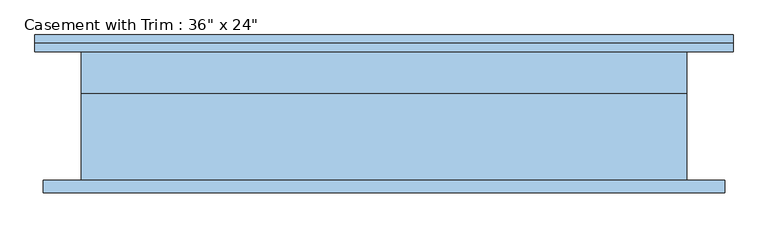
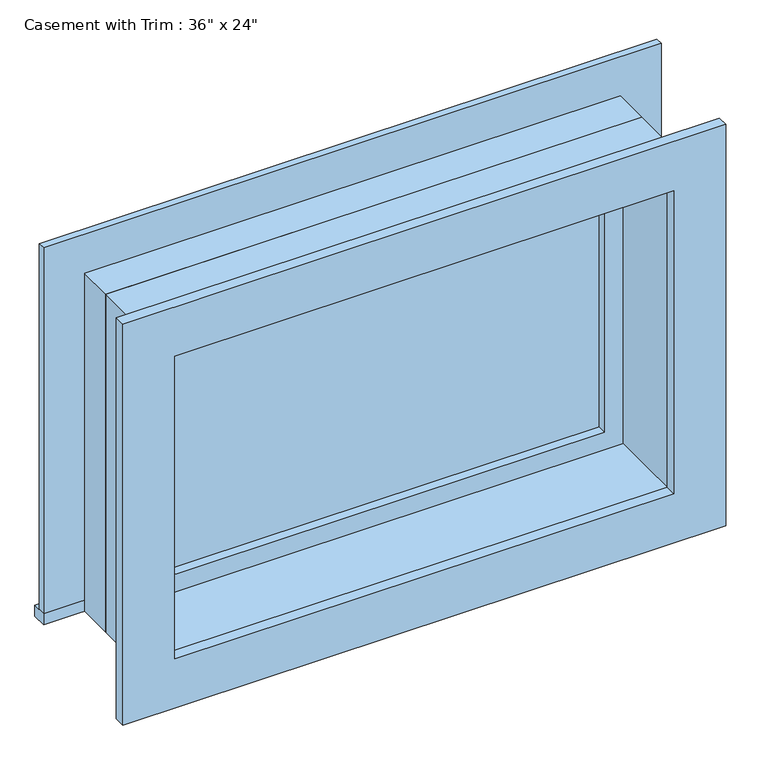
"""IFC4 building model written with IfcOpenShell, lengths in millimetres: window geometry."""

from ifc_helpers import new_model, si_unit, frame, origin, place, context, project, spatial, polyline, outline, extrude, source, transform, mapped, element, save


def window_aa1e092f(model_context):
    return source(origin(), model_context, "Body", "SweptSolid", [
        extrude(outline(polyline([(-527.05, 122.2375), (527.05, 122.2375), (527.05, 96.8375), (-527.05, 96.8375), (-527.05, 122.2375)])), frame((0.0, 0.0, 914.4), z_axis=(0.0, 0.0, 1.0), x_axis=(1.0, 0.0, 0.0)), (0.0, 0.0, 1.0), 19.05),
        extrude(outline(polyline([(1504.95, -438.15), (1504.95, 438.15), (933.45, 438.15), (933.45, 527.05), (1593.85, 527.05), (1593.85, -527.05), (933.45, -527.05), (933.45, -438.15), (1504.95, -438.15)])), frame((0.0, 96.8375, 0.0), z_axis=(0.0, 1.0, 0.0), x_axis=(0.0, 0.0, 1.0)), (0.0, 0.0, 1.0), 12.7),
        extrude(outline(polyline([(1581.15, 514.35), (1581.15, -514.35), (857.25, -514.35), (857.25, 514.35), (1581.15, 514.35)]), holes=[polyline([(1492.25, 425.45), (946.15, 425.45), (946.15, -425.45), (1492.25, -425.45), (1492.25, 425.45)])]), frame((0.0, -115.8875, 0.0), z_axis=(0.0, 1.0, 0.0), x_axis=(0.0, 0.0, 1.0)), (0.0, 0.0, 1.0), 19.05),
        extrude(outline(polyline([(393.7, 49.2125), (-393.7, 49.2125), (-393.7, 61.9125), (393.7, 61.9125), (393.7, 49.2125)])), frame((0.0, 0.0, 977.9), z_axis=(0.0, 0.0, 1.0), x_axis=(1.0, 0.0, 0.0)), (0.0, 0.0, 1.0), 482.6),
        extrude(outline(polyline([(1504.95, -438.15), (933.45, -438.15), (933.45, 438.15), (1504.95, 438.15), (1504.95, -438.15)]), holes=[polyline([(1460.5, -393.7), (1460.5, 393.7), (977.9, 393.7), (977.9, -393.7), (1460.5, -393.7)])]), frame((0.0, 33.3375, 0.0), z_axis=(0.0, 1.0, 0.0), x_axis=(0.0, 0.0, 1.0)), (0.0, 0.0, 1.0), 44.45),
        extrude(outline(polyline([(1524.0, -457.2), (914.4, -457.2), (914.4, 457.2), (1524.0, 457.2), (1524.0, -457.2)]), holes=[polyline([(1492.25, -425.45), (1492.25, 425.45), (946.15, 425.45), (946.15, -425.45), (1492.25, -425.45)])]), frame((0.0, -96.8375, 0.0), z_axis=(0.0, 1.0, 0.0), x_axis=(0.0, 0.0, 1.0)), (0.0, 0.0, 1.0), 130.175),
        extrude(outline(polyline([(1524.0, 457.2), (1524.0, -457.2), (914.4, -457.2), (914.4, 457.2), (1524.0, 457.2)]), holes=[polyline([(1504.95, 438.15), (933.45, 438.15), (933.45, -438.15), (1504.95, -438.15), (1504.95, 438.15)])]), frame((0.0, 33.3375, 0.0), z_axis=(0.0, 1.0, 0.0), x_axis=(0.0, 0.0, 1.0)), (0.0, 0.0, 1.0), 63.5),
    ])


if __name__ == "__main__":
    model = new_model("IFC4")
    model_context = context("Model", 3, world=origin())
    ifc_project = project(units=[si_unit("LENGTHUNIT", "METRE", prefix="MILLI")], contexts=[model_context])
    site = spatial("IfcSite", under=ifc_project)
    building = spatial("IfcBuilding", under=site)
    placement = place(None, origin())
    window_shape = window_aa1e092f(model_context)
    element("IfcWindow", 1, ObjectType="Casement with Trim : 36\" x 24\"", at=placement, inside=building, context=model_context, shape_type="MappedRepresentation", body=[
        mapped(window_shape, transform((0.0, 0.0, 0.0), x_axis=(1.0, 0.0, 0.0), y_axis=(0.0, 1.0, 0.0), z_axis=(0.0, 0.0, 1.0))),
    ])
    save(model, "model.ifc")
